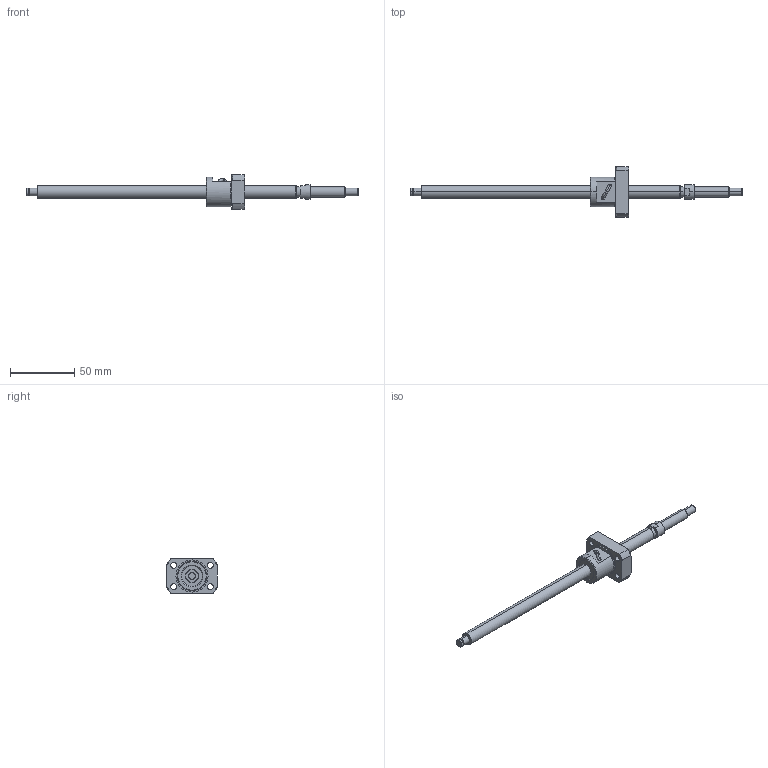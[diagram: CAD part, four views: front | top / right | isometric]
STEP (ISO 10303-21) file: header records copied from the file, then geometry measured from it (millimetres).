
FILE_DESCRIPTION (( 'STEP AP214' ), '1' );
FILE_NAME ('BS1002A-3D.STEP', '2014-03-07T16:32:28', ( '' ), ( '' ), 'SwSTEP 2.0', 'SolidWorks 2012', '' );
FILE_SCHEMA (( 'AUTOMOTIVE_DESIGN' ));
Length unit declared in the file: millimetre
Products named in the file (3): BS1002AŽ²; BS1002Aナット; BS1002A-3D
Assembly tree (2 placements, depth 2):
  BS1002A-3D
    BS1002Aナット
    BS1002AŽ²
Bounding box: 258 x 39 x 27 mm (x, y, z)
Volume: 32430.2 mm3; surface area: 15873.3 mm2
Topology: 5 solids, 5 shells, 161 faces, 404 edges, 262 vertices
Faces by surface type: cylinder 76, plane 45, cone 34, torus 4, bspline 2
Entity records: 6231 total; most frequent: CARTESIAN_POINT 2100, DIRECTION 862, ORIENTED_EDGE 804, EDGE_CURVE 402, AXIS2_PLACEMENT_3D 362, VERTEX_POINT 262, CIRCLE 198, EDGE_LOOP 196
